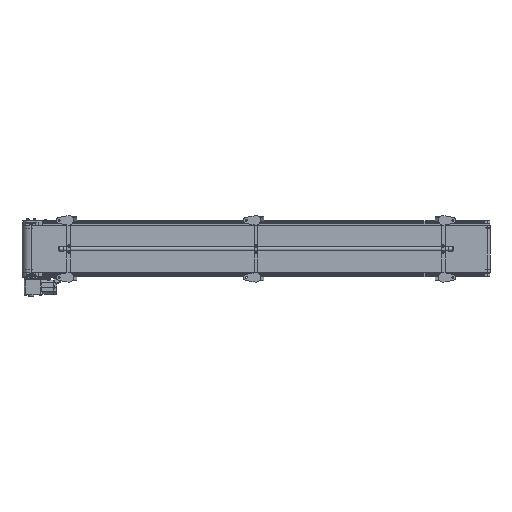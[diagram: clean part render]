
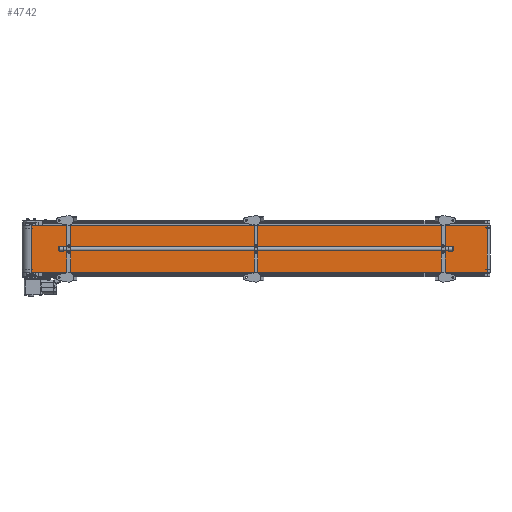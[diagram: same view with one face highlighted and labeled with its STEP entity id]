
A CAD part, front view. The second image highlights one B-rep face of the part: STEP entity #4742.
In plain terms, the highlighted planar face has unit normal (0.028, -1, 0).
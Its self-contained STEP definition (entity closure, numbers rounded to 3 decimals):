
#4742=ADVANCED_FACE('',(#31714),#31713,.F.);
#31713=PLANE('',#48250);
#31714=FACE_OUTER_BOUND('',#48251,.T.);
#48247=CARTESIAN_POINT('',(2992.998,-33.417,-160.));
#48248=DIRECTION('',(-0.028,1.,0.));
#48249=DIRECTION('',(-1.,-0.028,0.));
#48250=AXIS2_PLACEMENT_3D('',#48247,#48248,#48249);
#48251=EDGE_LOOP('',(#62257,#62258,#62259,#62260));
#62257=ORIENTED_EDGE('',*,*,#69694,.T.);
#62258=ORIENTED_EDGE('',*,*,#69701,.F.);
#62259=ORIENTED_EDGE('',*,*,#69688,.F.);
#62260=ORIENTED_EDGE('',*,*,#69702,.T.);
#69688=EDGE_CURVE('',#114297,#114282,#114304,.T.);
#69694=EDGE_CURVE('',#114346,#114338,#114347,.T.);
#69701=EDGE_CURVE('',#114282,#114338,#114394,.T.);
#69702=EDGE_CURVE('',#114297,#114346,#114400,.T.);
#114282=VERTEX_POINT('',#144443);
#114297=VERTEX_POINT('',#144453);
#114304=LINE('',#144458,#144459);
#114338=VERTEX_POINT('',#144479);
#114346=VERTEX_POINT('',#144485);
#114347=LINE('',#144486,#144487);
#114394=LINE('',#144515,#144516);
#114400=LINE('',#144518,#144519);
#144443=CARTESIAN_POINT('',(2983.002,-33.693,150.));
#144453=CARTESIAN_POINT('',(59.109,-114.328,150.));
#144458=CARTESIAN_POINT('',(59.109,-114.328,150.));
#144459=VECTOR('',#144460,2925.005);
#144460=DIRECTION('',(1.,0.028,0.));
#144479=CARTESIAN_POINT('',(2983.002,-33.693,-150.));
#144485=CARTESIAN_POINT('',(59.109,-114.328,-150.));
#144486=CARTESIAN_POINT('',(59.109,-114.328,-150.));
#144487=VECTOR('',#144488,2925.005);
#144488=DIRECTION('',(1.,0.028,0.));
#144515=CARTESIAN_POINT('',(2983.002,-33.693,150.));
#144516=VECTOR('',#144517,300.);
#144517=DIRECTION('',(0.,0.,-1.));
#144518=CARTESIAN_POINT('',(59.109,-114.328,150.));
#144519=VECTOR('',#144520,300.);
#144520=DIRECTION('',(0.,0.,-1.));
